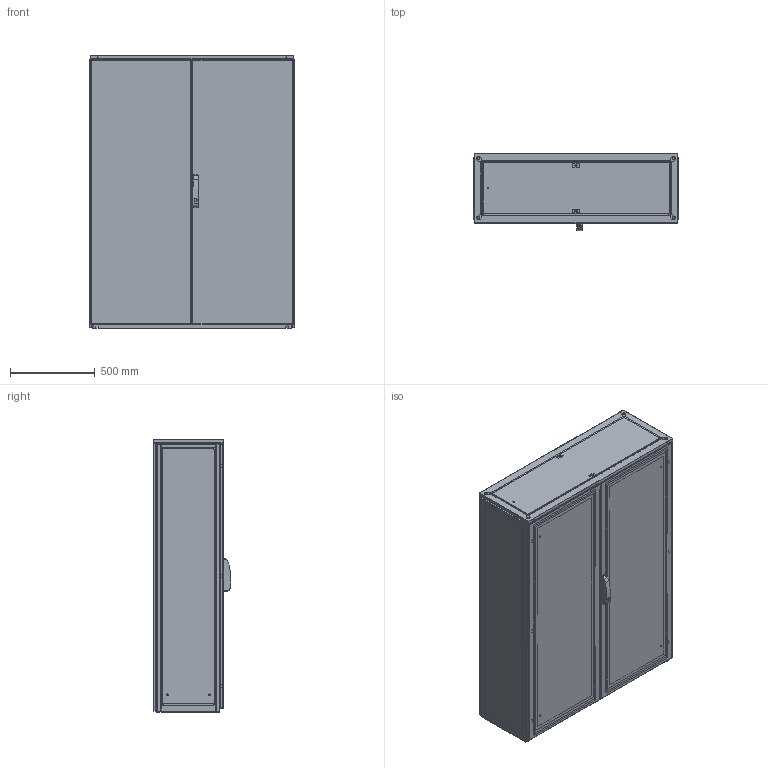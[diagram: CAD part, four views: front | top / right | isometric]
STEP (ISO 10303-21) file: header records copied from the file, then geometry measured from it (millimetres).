
FILE_DESCRIPTION(/* description */ ('STEP AP214'),/* implementation_level */ '2;1');
FILE_NAME(/* name */ 'ENUX121604PR -LOD350',/* time_stamp */ '2025-10-06T09:01:52+02:00',/* author */ ('License CC BY-ND 4.0'),/* organization */ ('CADENAS'),/* preprocessor_version */ 'ST-DEVELOPER v19.3',/* originating_system */ 'PARTsolutions',/* authorisation */ ' ');
FILE_SCHEMA (('AUTOMOTIVE_DESIGN {1 0 10303 214 3 1 1}'));
Length unit declared in the file: millimetre
Products named in the file (11): ENUX121604PR  -LOD350; ENUX121604PR  -LOD3501; ENUX121604PR  -LOD3507; ENUX121604PR  -LOD3502; ENUX121604PR  -LOD35011; ENUX121604PR  -LOD3503; ENUX121604PR  -LOD3508; ENUX121604PR  -LOD3505; ENUX121604PR  -LOD3504; ENUX121604PR  -LOD35010; ENUX121604PR  -LOD3509
Assembly tree (15 placements, depth 2):
  ENUX121604PR  -LOD350
    ENUX121604PR  -LOD3501
    ENUX121604PR  -LOD3507  x2
    ENUX121604PR  -LOD3502
    ENUX121604PR  -LOD35011
    ENUX121604PR  -LOD3503
    ENUX121604PR  -LOD3508
    ENUX121604PR  -LOD3505
    ENUX121604PR  -LOD3504
    ENUX121604PR  -LOD35010  x4
    ENUX121604PR  -LOD3509  x2
Bounding box: 1212 x 457 x 1608.5 mm (x, y, z)
Volume: 23771824.5 mm3; surface area: 18580392.9 mm2
Topology: 15 solids, 22 shells, 1414 faces, 3793 edges, 2476 vertices
Faces by surface type: plane 840, cylinder 524, torus 30, cone 12, sphere 8
Full cylindrical faces by diameter (mm): 6 x15, 9 x13, 12 x4, 14 x2, 17 x2, 28 x2
Entity records: 36142 total; most frequent: CARTESIAN_POINT 6619, DIRECTION 6135, ORIENTED_EDGE 6046, EDGE_CURVE 3023, AXIS2_PLACEMENT_3D 2047, LINE 2041, VECTOR 2041, VERTEX_POINT 1998
